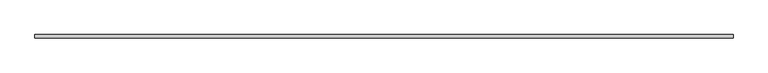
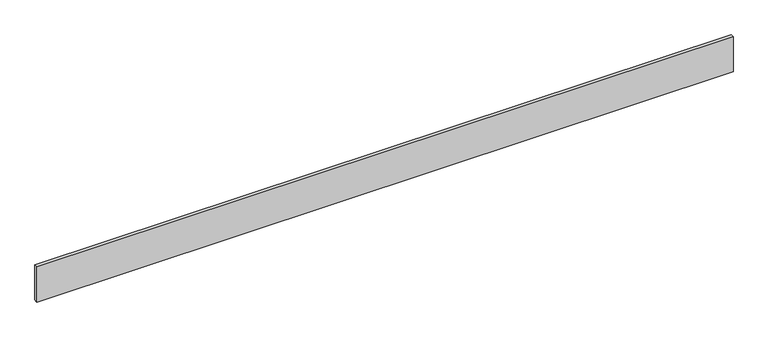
"""IFC4 building model written with IfcOpenShell, lengths in millimetres: beam geometry, Trus Joist - Rim Board Material : TJ® Rim Board – 11 7/8 x 1 1/8”."""

from ifc_helpers import new_model, si_unit, frame, origin, place, context, project, spatial, polyline, outline, extrude, source, transform, mapped, element, save


def beam_ad744352(model_context):
    return source(origin(), model_context, "Body", "SweptSolid", [
        extrude(outline(polyline([(2824.1625, 14.2875), (2824.1625, -14.2875), (-2843.2125, -14.2875), (-2843.2125, 14.2875), (2824.1625, 14.2875)])), frame((0.0, 0.0, -150.8125), z_axis=(0.0, 0.0, 1.0), x_axis=(1.0, 0.0, 0.0)), (0.0, 0.0, 1.0), 301.625),
    ])


if __name__ == "__main__":
    model = new_model("IFC4")
    model_context = context("Model", 3, world=origin())
    ifc_project = project(units=[si_unit("LENGTHUNIT", "METRE", prefix="MILLI")], contexts=[model_context])
    site = spatial("IfcSite", under=ifc_project)
    building = spatial("IfcBuilding", under=site)
    placement = place(None, origin())
    beam_shape = beam_ad744352(model_context)
    element("IfcBeam", 1, ObjectType="Trus Joist - Rim Board Material : TJ® Rim Board – 11 7/8 x 1 1/8”", at=placement, inside=building, context=model_context, shape_type="MappedRepresentation", body=[
        mapped(beam_shape, transform((0.0, 0.0, 0.0), x_axis=(1.0, 0.0, 0.0), y_axis=(0.0, 1.0, 0.0), z_axis=(0.0, 0.0, 1.0))),
    ])
    save(model, "model.ifc")
